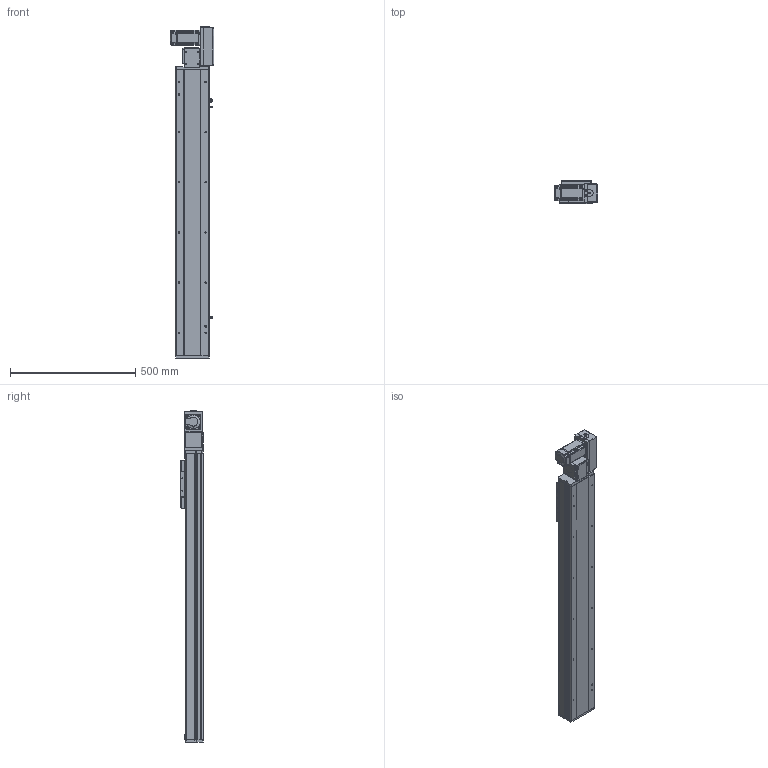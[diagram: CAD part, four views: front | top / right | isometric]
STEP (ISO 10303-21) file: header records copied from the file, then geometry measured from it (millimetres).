
FILE_DESCRIPTION (( 'STEP AP214' ), '1' );
FILE_NAME ('TPE14-L40-850-R-T40-C4.STEP', '2023-04-13T05:51:16', ( '' ), ( '' ), 'SwSTEP 2.0', 'SolidWorks 2020', '' );
FILE_SCHEMA (( 'AUTOMOTIVE_DESIGN' ));
Length unit declared in the file: millimetre
Products named in the file (10): 葩璃 TPE14-L-002 耜裔ZTMZ-135-04^TPE14-L40-R-T40-C4; 葩璃 TPT14-L-009 萇儂啣^TPE14-L40-R-T40-C4_400W; TPE14-L40-850-R-T40-C4; hexagon head bolts-full thread gb_GB_FASTENER_BOLT_STBAB A M5X16-N; 葩璃 TPE14-L-007 々湍釱MZ-169x88^TPE14-L40-R-T40-C4_YCB14; 葩璃 詩湍75^TPE14-L40-R-T40-C4; 葩璃 pm-t65-672^TPE14-L40-R-T40-C4; 葩璃 侂狟400W^TPE14-L40-R-T40-C4; 葩璃 TPE14 賑雄殤^TPE14-L40-R-T40-C4; 葩璃 TPE14-L-001 菁釱MZ-135-01^TPE14-L40-R-T40-C4
Assembly tree (12 placements, depth 2):
  TPE14-L40-850-R-T40-C4
    葩璃 TPE14-L-001 菁釱MZ-135-01^TPE14-L40-R-T40-C4
    葩璃 TPE14-L-002 耜裔ZTMZ-135-04^TPE14-L40-R-T40-C4  x2
    葩璃 詩湍75^TPE14-L40-R-T40-C4
    葩璃 TPE14-L-007 々湍釱MZ-169x88^TPE14-L40-R-T40-C4_YCB14
    葩璃 TPT14-L-009 萇儂啣^TPE14-L40-R-T40-C4_400W
    葩璃 TPE14 賑雄殤^TPE14-L40-R-T40-C4
    葩璃 pm-t65-672^TPE14-L40-R-T40-C4  x3
    葩璃 侂狟400W^TPE14-L40-R-T40-C4
    hexagon head bolts-full thread gb_GB_FASTENER_BOLT_STBAB A M5X16-N
Bounding box: 172.5 x 91 x 1325.15 mm (x, y, z)
Volume: 6489141.9 mm3; surface area: 1298652 mm2
Topology: 23 solids, 23 shells, 1404 faces, 3647 edges, 2320 vertices
Faces by surface type: plane 823, cylinder 417, cone 130, bspline 34
Entity records: 37343 total; most frequent: CARTESIAN_POINT 7320, DIRECTION 5968, ORIENTED_EDGE 5794, EDGE_CURVE 2897, AXIS2_PLACEMENT_3D 2022, VECTOR 1924, LINE 1924, VERTEX_POINT 1868
